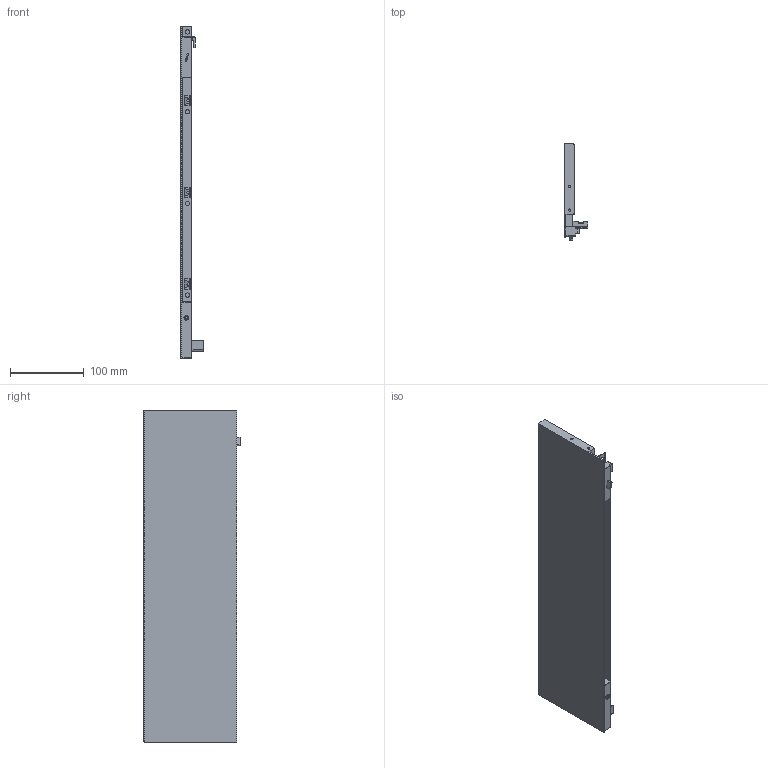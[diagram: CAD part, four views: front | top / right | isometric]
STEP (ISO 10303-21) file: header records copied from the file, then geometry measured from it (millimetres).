
FILE_DESCRIPTION (( 'STEP AP203' ), '1' );
FILE_NAME ('HT124501-L.STEP', '2021-03-16T02:21:42', ( 'Users' ), ( 'Microsoft' ), 'SwSTEP 2.0', 'SolidWorks 2018', '' );
FILE_SCHEMA (( 'CONFIG_CONTROL_DESIGN' ));
Length unit declared in the file: millimetre
Products named in the file (1): HT124501-L
Bounding box: 31.3 x 131 x 449 mm (x, y, z)
Volume: 606469.9 mm3; surface area: 149894.1 mm2
Topology: 1 solids, 8 shells, 402 faces, 1019 edges, 633 vertices
Faces by surface type: plane 199, cylinder 139, torus 29, bspline 23, cone 6, sphere 6
Entity records: 12554 total; most frequent: CARTESIAN_POINT 2952, ORIENTED_EDGE 2020, DIRECTION 1947, EDGE_CURVE 1010, AXIS2_PLACEMENT_3D 660, VERTEX_POINT 633, VECTOR 627, LINE 627
